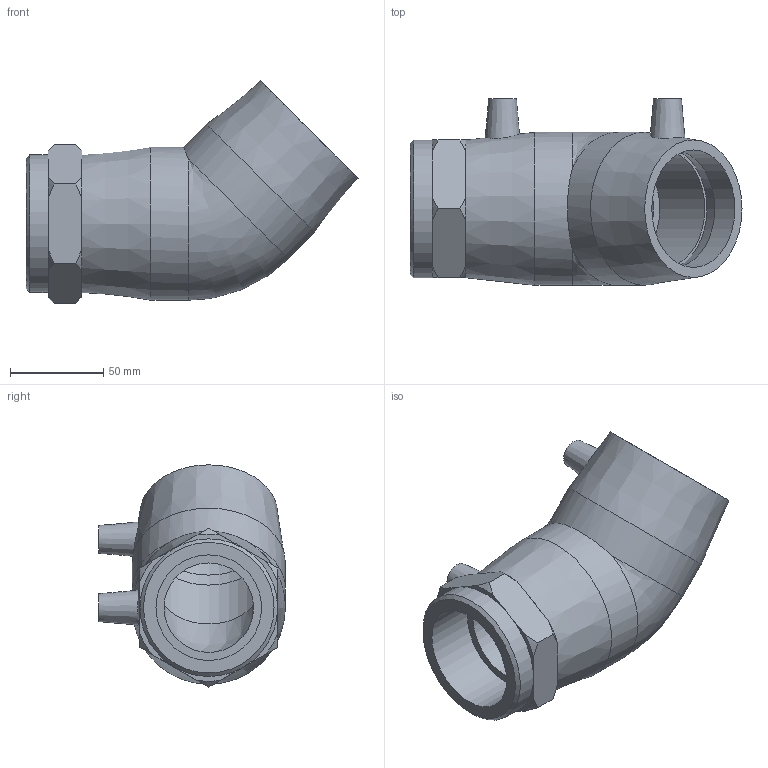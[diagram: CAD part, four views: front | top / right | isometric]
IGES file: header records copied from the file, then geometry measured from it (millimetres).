
Global section: file name: 493604063020.ipt; native system: Autodesk Inventor 2015; preprocessor: unknown; author: KIM; date: 20200202.122504; units: millimetre
Bounding box: 178 x 100 x 119.2 mm (x, y, z)
Volume: 433943.2 mm3; surface area: 87329.7 mm2
Topology: 1 solids, 2 shells, 61 faces, 150 edges, 100 vertices
Faces by surface type: plane 27, cone 17, revolution 9, cylinder 7, bspline 1
Full cylindrical faces by diameter (mm): 4 x2, 63 x2, 73.8 x1, 82 x2
